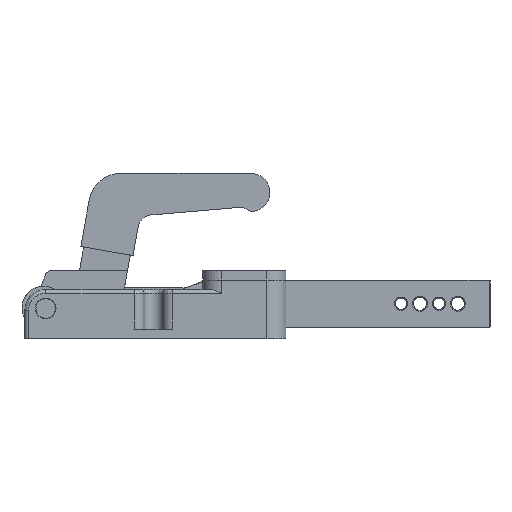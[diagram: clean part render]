
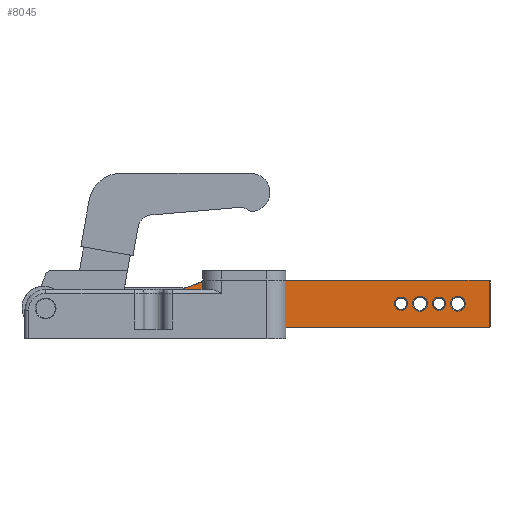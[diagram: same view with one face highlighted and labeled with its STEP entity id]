
A CAD part, front view. The second image highlights one B-rep face of the part: STEP entity #8045.
In plain terms, the highlighted planar face has unit normal (0, -1, 0) as drawn and (1, 0, 0) by its records, which use the part's own axes.
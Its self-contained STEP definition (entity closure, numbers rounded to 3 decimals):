
#104 = EDGE_CURVE ( 'NONE', #1112, #6347, #9506, .T. ) ;
#226 = AXIS2_PLACEMENT_3D ( 'NONE', #13958, #5862, #15329 ) ;
#265 = CARTESIAN_POINT ( 'NONE',  ( 20., 19.322, 164.62 ) ) ;
#283 = VERTEX_POINT ( 'NONE', #9258 ) ;
#398 = DIRECTION ( 'NONE',  ( 0., 0., 1. ) ) ;
#414 = CIRCLE ( 'NONE', #9114, 3.5 ) ;
#730 = CARTESIAN_POINT ( 'NONE',  ( 20., 12.5, 27. ) ) ;
#756 = ORIENTED_EDGE ( 'NONE', *, *, #2959, .T. ) ;
#794 = CIRCLE ( 'NONE', #13374, 3.5 ) ;
#857 = DIRECTION ( 'NONE',  ( 0., 0., 1. ) ) ;
#867 = CARTESIAN_POINT ( 'NONE',  ( 20., 10., 163. ) ) ;
#870 = LINE ( 'NONE', #7312, #7631 ) ;
#930 = LINE ( 'NONE', #3111, #7682 ) ;
#1080 = AXIS2_PLACEMENT_3D ( 'NONE', #14370, #6265, #15756 ) ;
#1105 = DIRECTION ( 'NONE',  ( 0., 0., -1. ) ) ;
#1112 = VERTEX_POINT ( 'NONE', #8796 ) ;
#1207 = EDGE_CURVE ( 'NONE', #5562, #15955, #1694, .T. ) ;
#1478 = CARTESIAN_POINT ( 'NONE',  ( 20., 12.5, 37. ) ) ;
#1542 = CARTESIAN_POINT ( 'NONE',  ( 20., 12.5, 43.5 ) ) ;
#1618 = CARTESIAN_POINT ( 'NONE',  ( 20., 12.5, 33. ) ) ;
#1651 = VERTEX_POINT ( 'NONE', #5080 ) ;
#1653 = DIRECTION ( 'NONE',  ( 0., 0., -1. ) ) ;
#1694 = CIRCLE ( 'NONE', #12251, 4.5 ) ;
#1974 = ORIENTED_EDGE ( 'NONE', *, *, #13063, .T. ) ;
#2005 = DIRECTION ( 'NONE',  ( -1., 0., 0. ) ) ;
#2025 = CIRCLE ( 'NONE', #16472, 3.5 ) ;
#2059 = CARTESIAN_POINT ( 'NONE',  ( 20., 12.5, 17. ) ) ;
#2108 = DIRECTION ( 'NONE',  ( 0., 0., -1. ) ) ;
#2440 = CARTESIAN_POINT ( 'NONE',  ( 20., 12.5, 41. ) ) ;
#2442 = EDGE_CURVE ( 'NONE', #11687, #5723, #13883, .T. ) ;
#2554 = CARTESIAN_POINT ( 'NONE',  ( 20., 12.5, 47. ) ) ;
#2580 = AXIS2_PLACEMENT_3D ( 'NONE', #2059, #11459, #3404 ) ;
#2820 = EDGE_CURVE ( 'NONE', #5723, #11205, #10457, .T. ) ;
#2829 = DIRECTION ( 'NONE',  ( 0., 0., -1. ) ) ;
#2835 = AXIS2_PLACEMENT_3D ( 'NONE', #14151, #2005, #3354 ) ;
#2959 = EDGE_CURVE ( 'NONE', #4324, #8798, #10236, .T. ) ;
#3001 = FACE_BOUND ( 'NONE', #7463, .T. ) ;
#3111 = CARTESIAN_POINT ( 'NONE',  ( 20., 25., 0. ) ) ;
#3354 = DIRECTION ( 'NONE',  ( 0., 0., -1. ) ) ;
#3404 = DIRECTION ( 'NONE',  ( 0., 0., -1. ) ) ;
#3603 = DIRECTION ( 'NONE',  ( -1., 0., 0. ) ) ;
#3928 = DIRECTION ( 'NONE',  ( 0., 0., -1. ) ) ;
#4273 = DIRECTION ( 'NONE',  ( 0., 1., 0. ) ) ;
#4320 = ORIENTED_EDGE ( 'NONE', *, *, #12836, .T. ) ;
#4324 = VERTEX_POINT ( 'NONE', #2440 ) ;
#4668 = EDGE_LOOP ( 'NONE', ( #11077, #15472, #8786, #16230, #10233, #5524 ) ) ;
#4811 = DIRECTION ( 'NONE',  ( -1., 0., 0. ) ) ;
#4903 = CARTESIAN_POINT ( 'NONE',  ( 20., 25., 150. ) ) ;
#5057 = CARTESIAN_POINT ( 'NONE',  ( 20., 10., 167.5 ) ) ;
#5080 = CARTESIAN_POINT ( 'NONE',  ( 20., 25., 0.5 ) ) ;
#5418 = CARTESIAN_POINT ( 'NONE',  ( 20., 12.5, 30.5 ) ) ;
#5524 = ORIENTED_EDGE ( 'NONE', *, *, #10740, .T. ) ;
#5562 = VERTEX_POINT ( 'NONE', #5057 ) ;
#5723 = VERTEX_POINT ( 'NONE', #16409 ) ;
#5862 = DIRECTION ( 'NONE',  ( -1., 0., 0. ) ) ;
#6133 = ORIENTED_EDGE ( 'NONE', *, *, #12093, .T. ) ;
#6265 = DIRECTION ( 'NONE',  ( 1., 0., 0. ) ) ;
#6347 = VERTEX_POINT ( 'NONE', #5418 ) ;
#6484 = EDGE_CURVE ( 'NONE', #6347, #1112, #2025, .T. ) ;
#6566 = FACE_BOUND ( 'NONE', #9788, .T. ) ;
#7014 = FACE_BOUND ( 'NONE', #17403, .T. ) ;
#7141 = CARTESIAN_POINT ( 'NONE',  ( 20., 12.5, 21. ) ) ;
#7194 = LINE ( 'NONE', #12371, #8634 ) ;
#7312 = CARTESIAN_POINT ( 'NONE',  ( 20., 25., 150. ) ) ;
#7453 = CARTESIAN_POINT ( 'NONE',  ( 20., 0., 161. ) ) ;
#7463 = EDGE_LOOP ( 'NONE', ( #9692, #10018 ) ) ;
#7631 = VECTOR ( 'NONE', #8647, 1000. ) ;
#7636 = LINE ( 'NONE', #10009, #14402 ) ;
#7682 = VECTOR ( 'NONE', #11175, 1000. ) ;
#7689 = CARTESIAN_POINT ( 'NONE',  ( 20., 0., 0.5 ) ) ;
#7884 = AXIS2_PLACEMENT_3D ( 'NONE', #17275, #9180, #1105 ) ;
#8011 = DIRECTION ( 'NONE',  ( -1., 0., 0. ) ) ;
#8045 = ADVANCED_FACE ( 'NONE', ( #13772, #6566, #7014, #3001, #16937, #13340 ), #17029, .T. ) ;
#8490 = DIRECTION ( 'NONE',  ( 1., 0., 0. ) ) ;
#8600 = EDGE_CURVE ( 'NONE', #15945, #9207, #414, .T. ) ;
#8634 = VECTOR ( 'NONE', #4273, 1000. ) ;
#8647 = DIRECTION ( 'NONE',  ( 0., -0.362, 0.932 ) ) ;
#8786 = ORIENTED_EDGE ( 'NONE', *, *, #2820, .T. ) ;
#8796 = CARTESIAN_POINT ( 'NONE',  ( 20., 12.5, 23.5 ) ) ;
#8798 = VERTEX_POINT ( 'NONE', #1618 ) ;
#8947 = DIRECTION ( 'NONE',  ( 1., 0., 0. ) ) ;
#9114 = AXIS2_PLACEMENT_3D ( 'NONE', #2554, #11985, #3928 ) ;
#9141 = EDGE_CURVE ( 'NONE', #8798, #4324, #12246, .T. ) ;
#9180 = DIRECTION ( 'NONE',  ( -1., 0., 0. ) ) ;
#9207 = VERTEX_POINT ( 'NONE', #1542 ) ;
#9258 = CARTESIAN_POINT ( 'NONE',  ( 20., 12.5, 13. ) ) ;
#9275 = CARTESIAN_POINT ( 'NONE',  ( 20., 12.5, 50.5 ) ) ;
#9444 = EDGE_CURVE ( 'NONE', #283, #15110, #15405, .T. ) ;
#9506 = CIRCLE ( 'NONE', #2835, 3.5 ) ;
#9564 = EDGE_LOOP ( 'NONE', ( #4320, #9810 ) ) ;
#9692 = ORIENTED_EDGE ( 'NONE', *, *, #104, .T. ) ;
#9788 = EDGE_LOOP ( 'NONE', ( #6133, #11738 ) ) ;
#9810 = ORIENTED_EDGE ( 'NONE', *, *, #8600, .T. ) ;
#9966 = AXIS2_PLACEMENT_3D ( 'NONE', #12913, #4811, #14257 ) ;
#10009 = CARTESIAN_POINT ( 'NONE',  ( 20., 0., 0. ) ) ;
#10018 = ORIENTED_EDGE ( 'NONE', *, *, #6484, .T. ) ;
#10122 = VERTEX_POINT ( 'NONE', #7689 ) ;
#10168 = DIRECTION ( 'NONE',  ( -1., 0., 0. ) ) ;
#10233 = ORIENTED_EDGE ( 'NONE', *, *, #15613, .T. ) ;
#10236 = CIRCLE ( 'NONE', #7884, 4. ) ;
#10457 = CIRCLE ( 'NONE', #11830, 10. ) ;
#10740 = EDGE_CURVE ( 'NONE', #1651, #12312, #930, .T. ) ;
#10911 = DIRECTION ( 'NONE',  ( -1., 0., 0. ) ) ;
#11023 = ORIENTED_EDGE ( 'NONE', *, *, #9141, .T. ) ;
#11077 = ORIENTED_EDGE ( 'NONE', *, *, #15233, .T. ) ;
#11175 = DIRECTION ( 'NONE',  ( 0., 0., 1. ) ) ;
#11205 = VERTEX_POINT ( 'NONE', #7453 ) ;
#11459 = DIRECTION ( 'NONE',  ( -1., 0., 0. ) ) ;
#11687 = VERTEX_POINT ( 'NONE', #265 ) ;
#11719 = EDGE_CURVE ( 'NONE', #11205, #10122, #7636, .T. ) ;
#11738 = ORIENTED_EDGE ( 'NONE', *, *, #1207, .T. ) ;
#11830 = AXIS2_PLACEMENT_3D ( 'NONE', #17040, #8947, #857 ) ;
#11985 = DIRECTION ( 'NONE',  ( -1., 0., 0. ) ) ;
#12091 = ORIENTED_EDGE ( 'NONE', *, *, #9444, .T. ) ;
#12093 = EDGE_CURVE ( 'NONE', #15955, #5562, #16909, .T. ) ;
#12183 = CIRCLE ( 'NONE', #9966, 4. ) ;
#12246 = CIRCLE ( 'NONE', #12302, 4. ) ;
#12251 = AXIS2_PLACEMENT_3D ( 'NONE', #867, #3603, #12300 ) ;
#12300 = DIRECTION ( 'NONE',  ( 0., 0., -1. ) ) ;
#12302 = AXIS2_PLACEMENT_3D ( 'NONE', #1478, #10911, #2829 ) ;
#12312 = VERTEX_POINT ( 'NONE', #4903 ) ;
#12371 = CARTESIAN_POINT ( 'NONE',  ( 20., 12.5, 0.5 ) ) ;
#12527 = EDGE_LOOP ( 'NONE', ( #11023, #756 ) ) ;
#12528 = AXIS2_PLACEMENT_3D ( 'NONE', #16613, #8490, #398 ) ;
#12836 = EDGE_CURVE ( 'NONE', #9207, #15945, #794, .T. ) ;
#12913 = CARTESIAN_POINT ( 'NONE',  ( 20., 12.5, 17. ) ) ;
#13063 = EDGE_CURVE ( 'NONE', #15110, #283, #12183, .T. ) ;
#13340 = FACE_BOUND ( 'NONE', #12527, .T. ) ;
#13374 = AXIS2_PLACEMENT_3D ( 'NONE', #16140, #8011, #17487 ) ;
#13772 = FACE_OUTER_BOUND ( 'NONE', #4668, .T. ) ;
#13883 = CIRCLE ( 'NONE', #12528, 10. ) ;
#13958 = CARTESIAN_POINT ( 'NONE',  ( 20., 10., 163. ) ) ;
#14151 = CARTESIAN_POINT ( 'NONE',  ( 20., 12.5, 27. ) ) ;
#14257 = DIRECTION ( 'NONE',  ( 0., 0., -1. ) ) ;
#14370 = CARTESIAN_POINT ( 'NONE',  ( 20., 12.5, 0. ) ) ;
#14402 = VECTOR ( 'NONE', #1653, 1000. ) ;
#15110 = VERTEX_POINT ( 'NONE', #7141 ) ;
#15233 = EDGE_CURVE ( 'NONE', #12312, #11687, #870, .T. ) ;
#15329 = DIRECTION ( 'NONE',  ( 0., 0., -1. ) ) ;
#15405 = CIRCLE ( 'NONE', #2580, 4. ) ;
#15472 = ORIENTED_EDGE ( 'NONE', *, *, #2442, .T. ) ;
#15613 = EDGE_CURVE ( 'NONE', #10122, #1651, #7194, .T. ) ;
#15756 = DIRECTION ( 'NONE',  ( 0., 0., -1. ) ) ;
#15945 = VERTEX_POINT ( 'NONE', #9275 ) ;
#15955 = VERTEX_POINT ( 'NONE', #17377 ) ;
#16140 = CARTESIAN_POINT ( 'NONE',  ( 20., 12.5, 47. ) ) ;
#16230 = ORIENTED_EDGE ( 'NONE', *, *, #11719, .T. ) ;
#16409 = CARTESIAN_POINT ( 'NONE',  ( 20., 10., 171. ) ) ;
#16472 = AXIS2_PLACEMENT_3D ( 'NONE', #730, #10168, #2108 ) ;
#16613 = CARTESIAN_POINT ( 'NONE',  ( 20., 10., 161. ) ) ;
#16909 = CIRCLE ( 'NONE', #226, 4.5 ) ;
#16937 = FACE_BOUND ( 'NONE', #9564, .T. ) ;
#17029 = PLANE ( 'NONE',  #1080 ) ;
#17040 = CARTESIAN_POINT ( 'NONE',  ( 20., 10., 161. ) ) ;
#17275 = CARTESIAN_POINT ( 'NONE',  ( 20., 12.5, 37. ) ) ;
#17377 = CARTESIAN_POINT ( 'NONE',  ( 20., 10., 158.5 ) ) ;
#17403 = EDGE_LOOP ( 'NONE', ( #12091, #1974 ) ) ;
#17487 = DIRECTION ( 'NONE',  ( 0., 0., -1. ) ) ;
